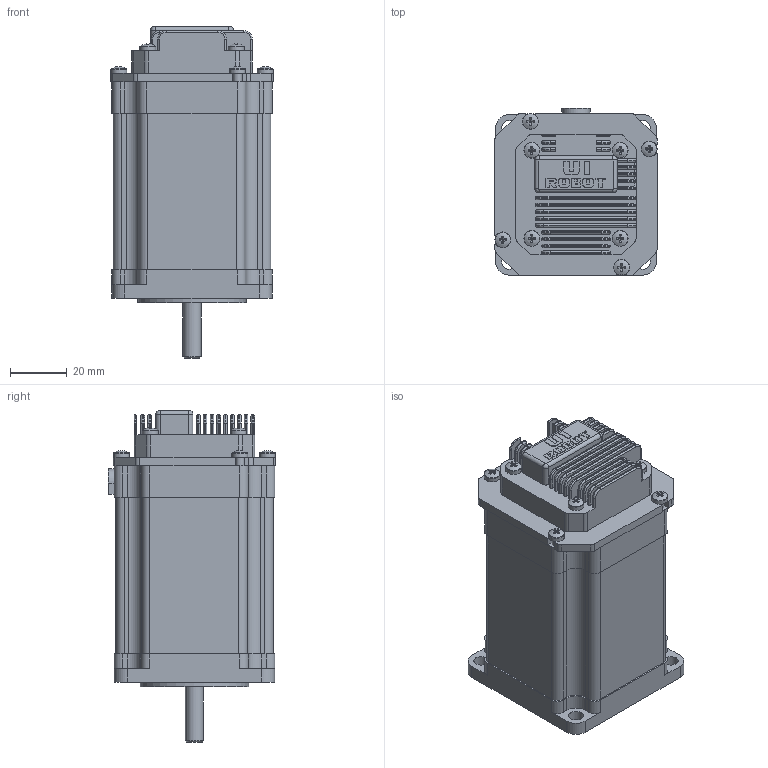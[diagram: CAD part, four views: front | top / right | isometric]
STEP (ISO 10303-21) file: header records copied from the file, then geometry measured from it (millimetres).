
FILE_DESCRIPTION(('STEP AP203'), '1');
FILE_NAME('PL57H76-D6', '', ('UNSPECIFIED'), ('UNSPECIFIED'), 'ASCON STEP Converter 1.6', 'ASCON Math Kernel', '');
FILE_SCHEMA(('CONFIG_CONTROL_DESIGN'));
Length unit declared in the file: millimetre
Products named in the file (6): UIM243C04BT; PL57H76-3.0-4; UIM243-01
Assembly tree (11 placements, depth 2):
  UIM243C04BT
    PL57H76-3.0-4
    UIM243-01
    (unnamed)  x4
    UIM243C04BT
    (unnamed)  x4
Bounding box: 57 x 58.7 x 116.65 mm (x, y, z)
Volume: 242870.5 mm3; surface area: 41445.9 mm2
Topology: 11 solids, 11 shells, 1142 faces, 2990 edges, 1941 vertices
Faces by surface type: plane 594, cylinder 263, extrusion 134, torus 78, bspline 64, sphere 8, cone 1
Full cylindrical faces by diameter (mm): 2.459 x4, 3 x8, 3.4 x4, 4 x1, 5.1 x4, 5.6 x8, 6.35 x1, 10 x1, 38.1 x1
Entity records: 31697 total; most frequent: CARTESIAN_POINT 6866, ORIENTED_EDGE 5062, DIRECTION 4630, EDGE_CURVE 2531, VECTOR 1792, VERTEX_POINT 1659, LINE 1658, AXIS2_PLACEMENT_3D 1419
